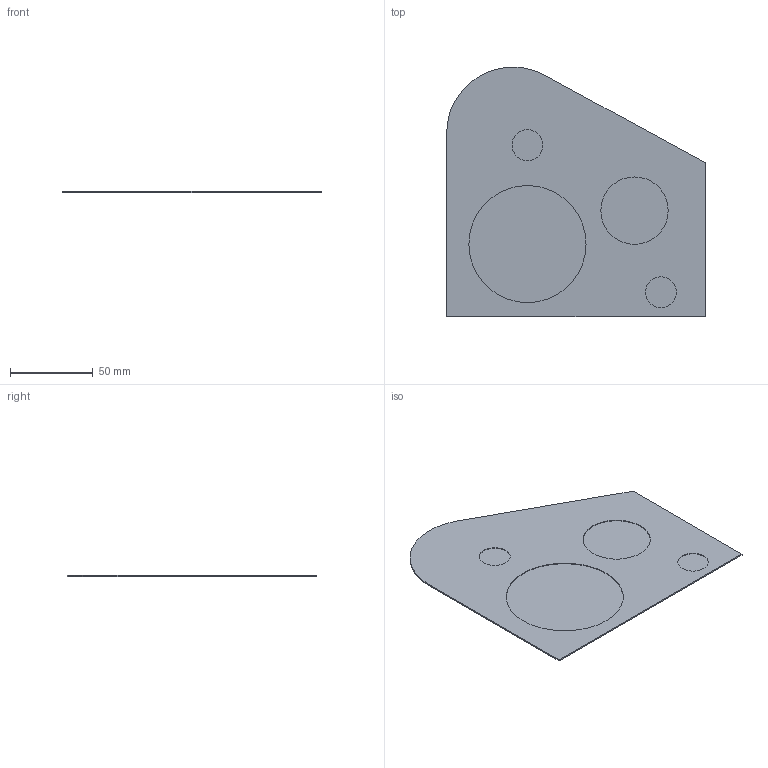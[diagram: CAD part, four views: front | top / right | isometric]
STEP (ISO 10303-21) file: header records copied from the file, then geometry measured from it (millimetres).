
FILE_DESCRIPTION(('STEP AP203'), '1');
FILE_NAME('ìàñêà äåêè ïåðåä 4', '', ('UNSPECIFIED'), ('UNSPECIFIED'), 'ASCON STEP Converter 1.3', 'ASCON Math Kernel', '');
FILE_SCHEMA(('CONFIG_CONTROL_DESIGN'));
Length unit declared in the file: millimetre
Bounding box: 155.98 x 150.61 x 0.8 mm (x, y, z)
Volume: 13769 mm3; surface area: 40803.8 mm2
Topology: 1 solids, 1 shells, 15 faces, 27 edges, 18 vertices
Faces by surface type: plane 10, cylinder 5
Full cylindrical faces by diameter (mm): 18.6 x2, 40.6 x1, 70.6 x1
Entity records: 515 total; most frequent: DIRECTION 65, CARTESIAN_POINT 57, ORIENTED_EDGE 46, AXIS2_PLACEMENT_3D 26, EDGE_LOOP 23, EDGE_CURVE 23, VERTEX_POINT 18, COLOUR_RGB 16
